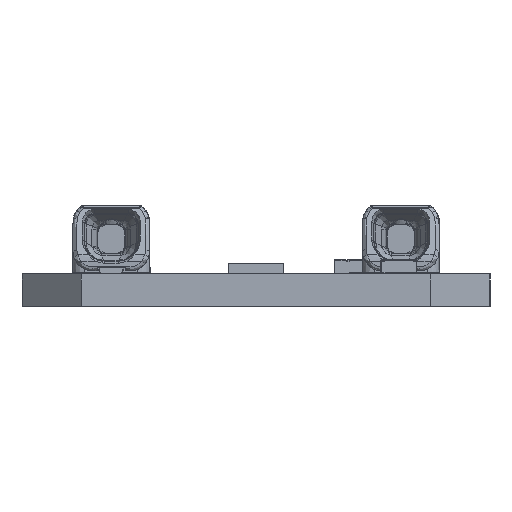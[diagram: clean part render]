
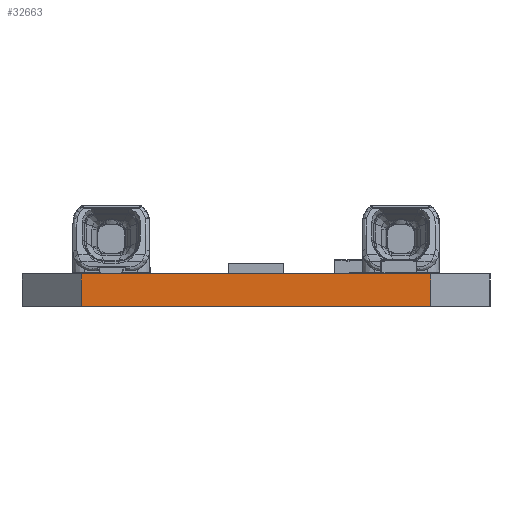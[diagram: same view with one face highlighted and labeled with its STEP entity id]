
A CAD part, left-side view. The second image highlights one B-rep face of the part: STEP entity #32663.
In plain terms, the highlighted planar face has unit normal (-1, 0, 0).
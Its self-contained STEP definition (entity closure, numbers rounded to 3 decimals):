
#1259=DIRECTION('',(0.,1.,0.));
#1260=VECTOR('',#1259,17.6);
#1261=CARTESIAN_POINT('',(-279.5,-8.8,0.));
#1262=LINE('',#1261,#1260);
#1904=DIRECTION('',(0.,0.,1.));
#1905=VECTOR('',#1904,1.65);
#1906=CARTESIAN_POINT('',(-279.5,8.8,0.));
#1907=LINE('',#1906,#1905);
#1911=DIRECTION('',(0.,0.,1.));
#1912=VECTOR('',#1911,1.65);
#1913=CARTESIAN_POINT('',(-279.5,-8.8,0.));
#1914=LINE('',#1913,#1912);
#1918=DIRECTION('',(0.,1.,0.));
#1919=VECTOR('',#1918,17.6);
#1920=CARTESIAN_POINT('',(-279.5,-8.8,1.65));
#1921=LINE('',#1920,#1919);
#27613=CARTESIAN_POINT('',(-279.5,8.8,1.65));
#27615=VERTEX_POINT('',#27613);
#27696=CARTESIAN_POINT('',(-279.5,-8.8,0.));
#27697=CARTESIAN_POINT('',(-279.5,-8.8,1.65));
#27698=VERTEX_POINT('',#27696);
#27699=VERTEX_POINT('',#27697);
#27872=CARTESIAN_POINT('',(-279.5,8.8,0.));
#27874=VERTEX_POINT('',#27872);
#32651=CARTESIAN_POINT('',(-279.5,8.8,1.65));
#32652=DIRECTION('',(-1.,0.,0.));
#32653=DIRECTION('',(0.,0.,1.));
#32654=AXIS2_PLACEMENT_3D('',#32651,#32652,#32653);
#32655=PLANE('',#32654);
#32657=ORIENTED_EDGE('',*,*,#32656,.F.);
#32658=ORIENTED_EDGE('',*,*,#32129,.T.);
#32659=ORIENTED_EDGE('',*,*,#32636,.T.);
#32660=ORIENTED_EDGE('',*,*,#31493,.F.);
#32661=EDGE_LOOP('',(#32657,#32658,#32659,#32660));
#32662=FACE_OUTER_BOUND('',#32661,.F.);
#31493=EDGE_CURVE('',#27699,#27615,#1921,.T.);
#32129=EDGE_CURVE('',#27698,#27874,#1262,.T.);
#32636=EDGE_CURVE('',#27874,#27615,#1907,.T.);
#32656=EDGE_CURVE('',#27698,#27699,#1914,.T.);
#32663=ADVANCED_FACE('',(#32662),#32655,.T.);
